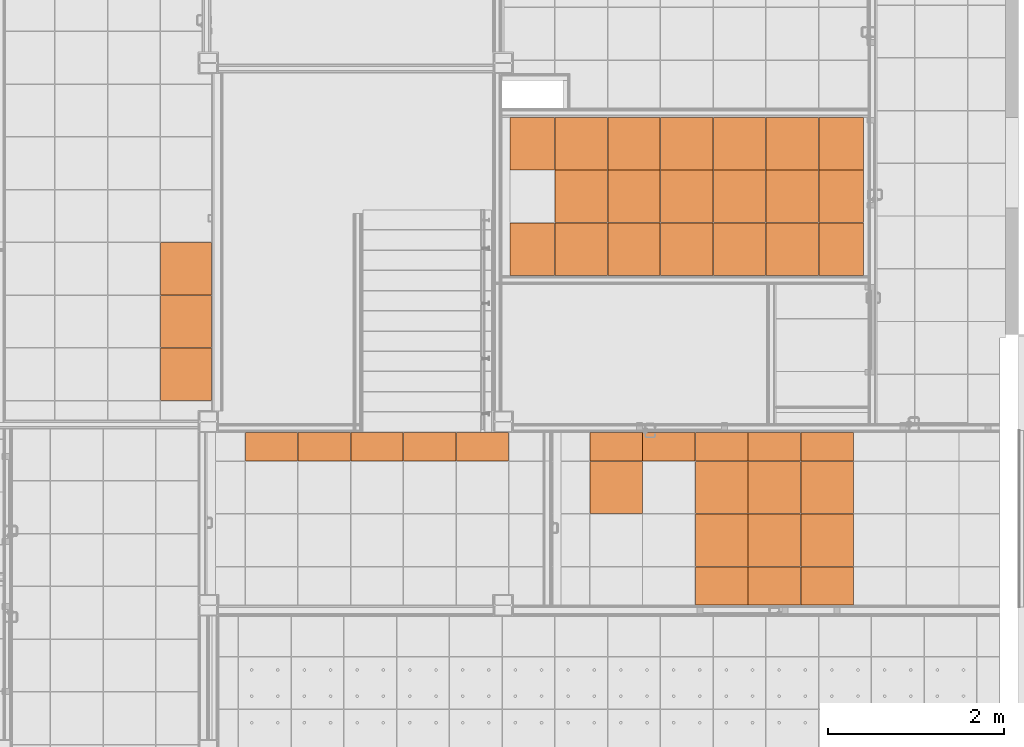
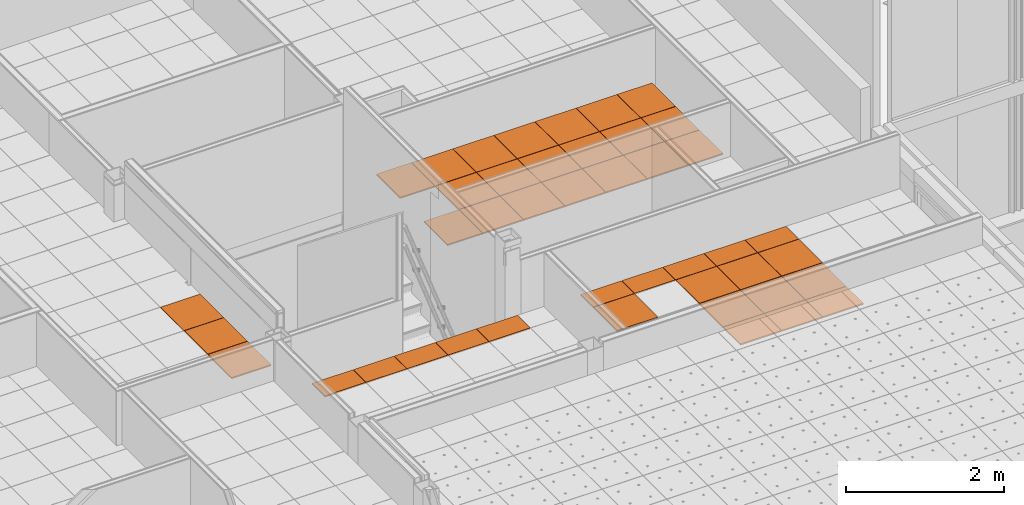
# One storey, part 269 of 338: 43 proxies, 4 elements without a shape of their own.
"""IFC2X3 building model written with IfcOpenShell, lengths in millimetres."""

from ifc_helpers import new_model, entity, si_unit, converted_unit, derived_unit, money_unit, direction, frame, origin_with_axes, place, context, subcontext, project, spatial, faceted_brep, source, transform, mapped, material, type_object, type_shapes, element, aggregate, save


model = new_model("IFC2X3")

# Units and contexts
model_context = context("Model", 3, precision=0.01, world=origin_with_axes(), true_north=direction((0.0, 1.0)))
plan_context = context("Plan", 3, precision=0.01, world=origin_with_axes(), true_north=direction((0.0, 1.0)))
body_context = subcontext(model_context, "Body", "Model", "MODEL_VIEW")
ifc_project = project(units=[si_unit("LENGTHUNIT", "METRE", prefix="MILLI"), si_unit("AREAUNIT", "SQUARE_METRE"), si_unit("VOLUMEUNIT", "CUBIC_METRE"), converted_unit("PLANEANGLEUNIT", "DEGREE", entity("IfcPlaneAngleMeasure", 0.0174532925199), si_unit("PLANEANGLEUNIT", "RADIAN"), dimensions=[0, 0, 0, 0, 0, 0, 0]), money_unit("EUR"), converted_unit("TIMEUNIT", "Year", entity("IfcTimeMeasure", 31556926.0), si_unit("TIMEUNIT", "SECOND"), dimensions=[0, 0, 1, 0, 0, 0, 0]), si_unit("MASSUNIT", "GRAM", prefix="KILO"), si_unit("THERMODYNAMICTEMPERATUREUNIT", "DEGREE_CELSIUS"), si_unit("LUMINOUSINTENSITYUNIT", "LUMEN"), si_unit("ENERGYUNIT", "JOULE", prefix="MEGA"), derived_unit("THERMALCONDUCTANCEUNIT", [(si_unit("POWERUNIT", "WATT"), 1), (si_unit("LENGTHUNIT", "METRE"), -1), (si_unit("THERMODYNAMICTEMPERATUREUNIT", "KELVIN"), -1)]), derived_unit("SPECIFICHEATCAPACITYUNIT", [(si_unit("ENERGYUNIT", "JOULE"), 1), (si_unit("MASSUNIT", "GRAM", prefix="KILO"), -1), (si_unit("THERMODYNAMICTEMPERATUREUNIT", "KELVIN"), -1)]), derived_unit("MASSDENSITYUNIT", [(si_unit("MASSUNIT", "GRAM", prefix="KILO"), 1), (si_unit("VOLUMEUNIT", "CUBIC_METRE"), -1)])], contexts=[model_context, plan_context])

# Site, building, storey
site_placement = place(None, origin_with_axes())
site = spatial("IfcSite", under=ifc_project, at=site_placement, Name="Fortuinstraat Woensdrecht", CompositionType="ELEMENT")
building_placement = place(site_placement, origin_with_axes())
building = spatial("IfcBuilding", under=site, at=building_placement, Name="IKC Fortuna", CompositionType="ELEMENT")
storey_placement = place(building_placement, origin_with_axes())
storey = spatial("IfcBuildingStorey", under=building, at=storey_placement, Name="00 begane grond", CompositionType="ELEMENT", Elevation=0.0)

# Covering, proxies
covering_type = type_object("IfcCoveringType", Name="Curtain Wall Type", PredefinedType="CEILING")
covering_1_placement = place(storey_placement, frame((30854.3216019, 19636.030534, 2810.0), z_axis=(0.0, 0.0, 1.0), x_axis=(1.0, 0.0, 0.0)))
covering_1 = element("IfcCovering", 1, at=covering_1_placement, inside=storey, type_object=covering_type, Name="45_Plafondafwerking_P02 gec", PredefinedType="CEILING")
ifc_material = material(Name="Gipsplaat")
building_element_proxy_type_1 = type_object("IfcBuildingElementProxyType", Name="Distinct Panel 600 x 600 x 20", PredefinedType="NOTDEFINED")
shared_shape_1 = source(origin_with_axes(), body_context, "Body", "Brep", [
    faceted_brep([(-2.49999999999, 2.5, -10.0), (-2.49999999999, 2.5, 10.0), (-597.5, 2.49999999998, 10.0), (-597.5, 2.49999999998, -10.0), (-2.50000000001, 597.5, -10.0), (-2.50000000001, 597.5, 10.0), (-597.5, 597.5, 10.0), (-597.5, 597.5, -10.0)], [[[0, 1, 2, 3]], [[4, 5, 1, 0]], [[1, 5, 6, 2]], [[3, 2, 6, 7]], [[0, 3, 7, 4]], [[7, 6, 5, 4]]]),
])
proxy_1_placement = place(covering_1_placement, frame((600.0, -463.766100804, 0.0), z_axis=(0.0, 0.0, 1.0), x_axis=(1.0, 0.0, 0.0)))
proxy_1 = element("IfcBuildingElementProxy", 2, at=proxy_1_placement, type_object=building_element_proxy_type_1, material=ifc_material, Name="__Panel-D", context=body_context, shape_type="MappedRepresentation", body=[
    mapped(shared_shape_1, transform((-300.0, 300.0, 0.0), x_axis=(-1.0, 0.0, 0.0), y_axis=(0.0, -1.0, 0.0), z_axis=(0.0, 0.0, 1.0))),
])
proxy_2_placement = place(covering_1_placement, frame((600.0, -1063.7661008, 0.0), z_axis=(0.0, 0.0, 1.0), x_axis=(1.0, 0.0, 0.0)))
proxy_2 = element("IfcBuildingElementProxy", 3, at=proxy_2_placement, type_object=building_element_proxy_type_1, material=ifc_material, Name="__Panel-D", context=body_context, shape_type="MappedRepresentation", body=[
    mapped(shared_shape_1, transform((-300.0, 300.0, 0.0), x_axis=(-1.0, 0.0, 0.0), y_axis=(0.0, -1.0, 0.0), z_axis=(0.0, 0.0, 1.0))),
])
proxy_3_placement = place(covering_1_placement, frame((1800.0, -463.766100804, 0.0), z_axis=(0.0, 0.0, 1.0), x_axis=(1.0, 0.0, 0.0)))
proxy_3 = element("IfcBuildingElementProxy", 4, at=proxy_3_placement, type_object=building_element_proxy_type_1, material=ifc_material, Name="__Panel-D", context=body_context, shape_type="MappedRepresentation", body=[
    mapped(shared_shape_1, transform((-300.0, 300.0, 0.0), x_axis=(-1.0, 0.0, 0.0), y_axis=(0.0, -1.0, 0.0), z_axis=(0.0, 0.0, 1.0))),
])
proxy_4_placement = place(covering_1_placement, frame((1800.0, -1063.7661008, 0.0), z_axis=(0.0, 0.0, 1.0), x_axis=(1.0, 0.0, 0.0)))
proxy_4 = element("IfcBuildingElementProxy", 5, at=proxy_4_placement, type_object=building_element_proxy_type_1, material=ifc_material, Name="__Panel-D", context=body_context, shape_type="MappedRepresentation", body=[
    mapped(shared_shape_1, transform((-300.0, 300.0, 0.0), x_axis=(-1.0, 0.0, 0.0), y_axis=(0.0, -1.0, 0.0), z_axis=(0.0, 0.0, 1.0))),
])
proxy_5_placement = place(covering_1_placement, frame((1200.0, -1063.7661008, 0.0), z_axis=(0.0, 0.0, 1.0), x_axis=(1.0, 0.0, 0.0)))
proxy_5 = element("IfcBuildingElementProxy", 6, at=proxy_5_placement, type_object=building_element_proxy_type_1, material=ifc_material, Name="__Panel-D", context=body_context, shape_type="MappedRepresentation", body=[
    mapped(shared_shape_1, transform((-300.0, 300.0, 0.0), x_axis=(-1.0, 0.0, 0.0), y_axis=(0.0, -1.0, 0.0), z_axis=(0.0, 0.0, 1.0))),
])

covering_2_placement = place(storey_placement, frame((29857.0095423, 23084.513552, 2810.0), z_axis=(0.0, 0.0, 1.0), x_axis=(1.0, 0.0, 0.0)))
covering_2 = element("IfcCovering", 7, at=covering_2_placement, inside=storey, type_object=covering_type, Name="45_Plafondafwerking_P02", PredefinedType="CEILING")
proxy_6_placement = place(covering_2_placement, frame((0.0, -1200.00000243, 0.0), z_axis=(0.0, 0.0, 1.0), x_axis=(1.0, 0.0, 0.0)))
proxy_6 = element("IfcBuildingElementProxy", 8, at=proxy_6_placement, type_object=building_element_proxy_type_1, material=ifc_material, Name="__Panel-D", context=body_context, shape_type="MappedRepresentation", body=[
    mapped(shared_shape_1, transform((-300.0, 300.000001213, 0.0), x_axis=(-1.0, 0.0, 0.0), y_axis=(0.0, -1.0, 0.0), z_axis=(0.0, 0.0, 1.0))),
])
proxy_7_placement = place(covering_2_placement, frame((0.0, -600.000001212, 0.0), z_axis=(0.0, 0.0, 1.0), x_axis=(1.0, 0.0, 0.0)))
proxy_7 = element("IfcBuildingElementProxy", 9, at=proxy_7_placement, type_object=building_element_proxy_type_1, material=ifc_material, Name="__Panel-D", context=body_context, shape_type="MappedRepresentation", body=[
    mapped(shared_shape_1, transform((-300.0, 300.0, 0.0), x_axis=(-1.0, 0.0, 0.0), y_axis=(0.0, -1.0, 0.0), z_axis=(0.0, 0.0, 1.0))),
])
proxy_8_placement = place(covering_2_placement, frame((1800.0, -1200.00000243, 0.0), z_axis=(0.0, 0.0, 1.0), x_axis=(1.0, 0.0, 0.0)))
proxy_8 = element("IfcBuildingElementProxy", 10, at=proxy_8_placement, type_object=building_element_proxy_type_1, material=ifc_material, Name="__Panel-D", context=body_context, shape_type="MappedRepresentation", body=[
    mapped(shared_shape_1, transform((-300.0, 300.000001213, 0.0), x_axis=(-1.0, 0.0, 0.0), y_axis=(0.0, -1.0, 0.0), z_axis=(0.0, 0.0, 1.0))),
])
proxy_9_placement = place(covering_2_placement, frame((600.0, 0.0, 0.0), z_axis=(0.0, 0.0, 1.0), x_axis=(1.0, 0.0, 0.0)))
proxy_9 = element("IfcBuildingElementProxy", 11, at=proxy_9_placement, type_object=building_element_proxy_type_1, material=ifc_material, Name="__Panel-D", context=body_context, shape_type="MappedRepresentation", body=[
    mapped(shared_shape_1, transform((-300.0, 300.000001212, 0.0), x_axis=(-1.0, 0.0, 0.0), y_axis=(0.0, -1.0, 0.0), z_axis=(0.0, 0.0, 1.0))),
])
proxy_10_placement = place(covering_2_placement, frame((2400.0, -600.000001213, 1.05693231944e-10), z_axis=(0.0, 0.0, 1.0), x_axis=(1.0, 0.0, 0.0)))
proxy_10 = element("IfcBuildingElementProxy", 12, at=proxy_10_placement, type_object=building_element_proxy_type_1, material=ifc_material, Name="__Panel-D", context=body_context, shape_type="MappedRepresentation", body=[
    mapped(shared_shape_1, transform((-300.0, 300.0, 0.0), x_axis=(-1.0, 0.0, 0.0), y_axis=(0.0, -1.0, 0.0), z_axis=(0.0, 0.0, 1.0))),
])
proxy_11_placement = place(covering_2_placement, frame((1200.0, -1200.00000243, 0.0), z_axis=(0.0, 0.0, 1.0), x_axis=(1.0, 0.0, 0.0)))
proxy_11 = element("IfcBuildingElementProxy", 13, at=proxy_11_placement, type_object=building_element_proxy_type_1, material=ifc_material, Name="__Panel-D", context=body_context, shape_type="MappedRepresentation", body=[
    mapped(shared_shape_1, transform((-300.0, 300.000001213, 0.0), x_axis=(-1.0, 0.0, 0.0), y_axis=(0.0, -1.0, 0.0), z_axis=(0.0, 0.0, 1.0))),
])
proxy_12_placement = place(covering_2_placement, frame((600.0, -600.000001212, 0.0), z_axis=(0.0, 0.0, 1.0), x_axis=(1.0, 0.0, 0.0)))
proxy_12 = element("IfcBuildingElementProxy", 14, at=proxy_12_placement, type_object=building_element_proxy_type_1, material=ifc_material, Name="__Panel-D", context=body_context, shape_type="MappedRepresentation", body=[
    mapped(shared_shape_1, transform((-300.0, 300.0, 0.0), x_axis=(-1.0, 0.0, 0.0), y_axis=(0.0, -1.0, 0.0), z_axis=(0.0, 0.0, 1.0))),
])
proxy_13_placement = place(covering_2_placement, frame((1800.0, 0.0, 0.0), z_axis=(0.0, 0.0, 1.0), x_axis=(1.0, 0.0, 0.0)))
proxy_13 = element("IfcBuildingElementProxy", 15, at=proxy_13_placement, type_object=building_element_proxy_type_1, material=ifc_material, Name="__Panel-D", context=body_context, shape_type="MappedRepresentation", body=[
    mapped(shared_shape_1, transform((-300.0, 300.000001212, 0.0), x_axis=(-1.0, 0.0, 0.0), y_axis=(0.0, -1.0, 0.0), z_axis=(0.0, 0.0, 1.0))),
])
proxy_14_placement = place(covering_2_placement, frame((1200.0, -600.000001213, 0.0), z_axis=(0.0, 0.0, 1.0), x_axis=(1.0, 0.0, 0.0)))
proxy_14 = element("IfcBuildingElementProxy", 16, at=proxy_14_placement, type_object=building_element_proxy_type_1, material=ifc_material, Name="__Panel-D", context=body_context, shape_type="MappedRepresentation", body=[
    mapped(shared_shape_1, transform((-300.0, 300.0, 0.0), x_axis=(-1.0, 0.0, 0.0), y_axis=(0.0, -1.0, 0.0), z_axis=(0.0, 0.0, 1.0))),
])
proxy_15_placement = place(covering_2_placement, frame((2400.0, 0.0, 1.05693231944e-10), z_axis=(0.0, 0.0, 1.0), x_axis=(1.0, 0.0, 0.0)))
proxy_15 = element("IfcBuildingElementProxy", 17, at=proxy_15_placement, type_object=building_element_proxy_type_1, material=ifc_material, Name="__Panel-D", context=body_context, shape_type="MappedRepresentation", body=[
    mapped(shared_shape_1, transform((-300.0, 300.000001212, 0.0), x_axis=(-1.0, 0.0, 0.0), y_axis=(0.0, -1.0, 0.0), z_axis=(0.0, 0.0, 1.0))),
])
proxy_16_placement = place(covering_2_placement, frame((2400.0, -1200.00000243, 1.05693231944e-10), z_axis=(0.0, 0.0, 1.0), x_axis=(1.0, 0.0, 0.0)))
proxy_16 = element("IfcBuildingElementProxy", 18, at=proxy_16_placement, type_object=building_element_proxy_type_1, material=ifc_material, Name="__Panel-D", context=body_context, shape_type="MappedRepresentation", body=[
    mapped(shared_shape_1, transform((-300.0, 300.000001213, 0.0), x_axis=(-1.0, 0.0, 0.0), y_axis=(0.0, -1.0, 0.0), z_axis=(0.0, 0.0, 1.0))),
])
proxy_17_placement = place(covering_2_placement, frame((1800.0, -600.000001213, 0.0), z_axis=(0.0, 0.0, 1.0), x_axis=(1.0, 0.0, 0.0)))
proxy_17 = element("IfcBuildingElementProxy", 19, at=proxy_17_placement, type_object=building_element_proxy_type_1, material=ifc_material, Name="__Panel-D", context=body_context, shape_type="MappedRepresentation", body=[
    mapped(shared_shape_1, transform((-300.0, 300.0, 0.0), x_axis=(-1.0, 0.0, 0.0), y_axis=(0.0, -1.0, 0.0), z_axis=(0.0, 0.0, 1.0))),
])
proxy_18_placement = place(covering_2_placement, frame((1200.0, 0.0, 0.0), z_axis=(0.0, 0.0, 1.0), x_axis=(1.0, 0.0, 0.0)))
proxy_18 = element("IfcBuildingElementProxy", 20, at=proxy_18_placement, type_object=building_element_proxy_type_1, material=ifc_material, Name="__Panel-D", context=body_context, shape_type="MappedRepresentation", body=[
    mapped(shared_shape_1, transform((-300.0, 300.000001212, 0.0), x_axis=(-1.0, 0.0, 0.0), y_axis=(0.0, -1.0, 0.0), z_axis=(0.0, 0.0, 1.0))),
])

covering_3_placement = place(storey_placement, frame((21169.4446171, 27661.0834994, 3010.0), z_axis=(0.0, 0.0, 1.0), x_axis=(1.0, 0.0, 0.0)))
covering_3 = element("IfcCovering", 21, at=covering_3_placement, inside=storey, type_object=covering_type, Name="45_Plafondafwerking_P04", PredefinedType="CEILING")
building_element_proxy_type_2 = type_object("IfcBuildingElementProxyType", Name="Distinct Panel 583 x 600 x 20", PredefinedType="NOTDEFINED")
shared_shape_2 = source(origin_with_axes(), body_context, "Body", "Brep", [
    faceted_brep([(-2.49999967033, 2.5, -10.0), (-2.49999967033, 2.5, 10.0), (-580.990379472, 2.49999999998, 10.0), (-580.990379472, 2.49999999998, -10.0), (-2.49999967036, 597.5, -10.0), (-2.49999967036, 597.5, 10.0), (-580.990379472, 597.5, 10.0), (-580.990379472, 597.5, -10.0)], [[[0, 1, 2, 3]], [[4, 5, 1, 0]], [[1, 5, 6, 2]], [[3, 2, 6, 7]], [[0, 3, 7, 4]], [[7, 6, 5, 4]]]),
])
type_shapes(building_element_proxy_type_2, [shared_shape_2])
proxy_19_placement = place(covering_3_placement, frame((4191.74518974, -6600.0, 1.55875312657e-10), z_axis=(0.0, 0.0, 1.0), x_axis=(1.0, 0.0, 0.0)))
proxy_19 = element("IfcBuildingElementProxy", 22, at=proxy_19_placement, type_object=building_element_proxy_type_2, material=ifc_material, Name="__Panel-D", context=body_context, shape_type="MappedRepresentation", body=[
    mapped(shared_shape_2, transform((-291.745189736, 300.0, 0.0), x_axis=(-1.0, 0.0, 0.0), y_axis=(0.0, -1.0, 0.0), z_axis=(0.0, 0.0, 1.0))),
])
proxy_20_placement = place(covering_3_placement, frame((4191.74518974, -6000.0, 1.55875312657e-10), z_axis=(0.0, 0.0, 1.0), x_axis=(1.0, 0.0, 0.0)))
proxy_20 = element("IfcBuildingElementProxy", 23, at=proxy_20_placement, type_object=building_element_proxy_type_2, material=ifc_material, Name="__Panel-D", context=body_context, shape_type="MappedRepresentation", body=[
    mapped(shared_shape_2, transform((-291.745189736, 300.0, 0.0), x_axis=(-1.0, 0.0, 0.0), y_axis=(0.0, -1.0, 0.0), z_axis=(0.0, 0.0, 1.0))),
])
proxy_21_placement = place(covering_3_placement, frame((4191.74518241, -7200.0, 1.55875312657e-10), z_axis=(0.0, 0.0, 1.0), x_axis=(1.0, 0.0, 0.0)))
proxy_21 = element("IfcBuildingElementProxy", 24, at=proxy_21_placement, type_object=building_element_proxy_type_2, material=ifc_material, Name="__Panel-D", context=body_context, shape_type="MappedRepresentation", body=[
    mapped(shared_shape_2, transform((-291.745182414, 300.0, 0.0), x_axis=(-1.0, 0.0, 0.0), y_axis=(0.0, -1.0, 0.0), z_axis=(0.0, 0.0, 1.0))),
])
aggregate(covering_3, [proxy_19, proxy_20, proxy_21])

# Proxy
shared_shape_3 = source(origin_with_axes(), body_context, "Body", "Brep", [
    faceted_brep([(-2.50000188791, 2.50000518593, -10.0), (-2.50000188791, 2.50000518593, 10.0), (-597.499994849, 2.50000192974, 10.0), (-597.499994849, 2.50000192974, -10.0), (-2.50000514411, 597.499998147, -10.0), (-2.50000514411, 597.499998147, 10.0), (-597.499998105, 597.499994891, 10.0), (-597.499998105, 597.499994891, -10.0)], [[[0, 1, 2, 3]], [[4, 5, 1, 0]], [[1, 5, 6, 2]], [[3, 2, 6, 7]], [[0, 3, 7, 4]], [[7, 6, 5, 4]]]),
])
proxy_22_placement = place(covering_1_placement, frame((1200.0, -463.766100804, 0.0), z_axis=(0.0, 0.0, 1.0), x_axis=(1.0, 0.0, 0.0)))
proxy_22 = element("IfcBuildingElementProxy", 25, at=proxy_22_placement, type_object=building_element_proxy_type_1, material=ifc_material, Name="__Panel-D", context=body_context, shape_type="MappedRepresentation", body=[
    mapped(shared_shape_3, transform((-300.0, 300.0, 0.0), x_axis=(-1.0, 0.0, 0.0), y_axis=(0.0, -1.0, 0.0), z_axis=(0.0, 0.0, 1.0))),
])

proxy_23_placement = place(covering_2_placement, origin_with_axes())
proxy_23 = element("IfcBuildingElementProxy", 26, at=proxy_23_placement, type_object=building_element_proxy_type_1, material=ifc_material, Name="__Panel-D", context=body_context, shape_type="MappedRepresentation", body=[
    mapped(shared_shape_3, transform((-300.0, 300.000001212, 0.0), x_axis=(-1.0, 0.0, 0.0), y_axis=(0.0, -1.0, 0.0), z_axis=(0.0, 0.0, 1.0))),
])

shared_shape_4 = source(origin_with_axes(), body_context, "Body", "Brep", [
    faceted_brep([(-2.5000069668, 2.4999963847, -10.0), (-2.5000069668, 2.4999963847, 10.0), (-597.499995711, 2.50000275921, 10.0), (-597.499995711, 2.50000275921, -10.0), (-2.50000214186, 597.499967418, -10.0), (-2.50000214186, 597.499967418, 10.0), (-597.499990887, 597.499973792, 10.0), (-597.499990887, 597.499973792, -10.0)], [[[0, 1, 2, 3]], [[4, 5, 1, 0]], [[1, 5, 6, 2]], [[3, 2, 6, 7]], [[0, 3, 7, 4]], [[7, 6, 5, 4]]]),
])
proxy_24_placement = place(covering_2_placement, frame((600.0, -1200.00000243, 0.0), z_axis=(0.0, 0.0, 1.0), x_axis=(1.0, 0.0, 0.0)))
proxy_24 = element("IfcBuildingElementProxy", 27, at=proxy_24_placement, type_object=building_element_proxy_type_1, material=ifc_material, Name="__Panel-D", context=body_context, shape_type="MappedRepresentation", body=[
    mapped(shared_shape_4, transform((-300.0, 300.000001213, 0.0), x_axis=(-1.0, 0.0, 0.0), y_axis=(0.0, -1.0, 0.0), z_axis=(0.0, 0.0, 1.0))),
])

shared_shape_5 = source(origin_with_axes(), body_context, "Body", "Brep", [
    faceted_brep([(-2.50000185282, 2.50000514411, -10.0), (-2.50000185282, 2.50000514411, 10.0), (-597.499994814, 2.50000188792, 10.0), (-597.499994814, 2.50000188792, -10.0), (-2.50000510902, 597.499998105, -10.0), (-2.50000510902, 597.499998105, 10.0), (-597.49998844, 597.50000293, 10.0), (-597.49998844, 597.50000293, -10.0)], [[[0, 1, 2, 3]], [[4, 5, 1, 0]], [[1, 5, 6, 2]], [[3, 2, 6, 7]], [[0, 3, 7, 4]], [[7, 6, 5, 4]]]),
])
type_shapes(building_element_proxy_type_1, [shared_shape_1, shared_shape_3, shared_shape_4, shared_shape_5])
proxy_25_placement = place(covering_1_placement, frame((-600.0, -463.766100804, 0.0), z_axis=(0.0, 0.0, 1.0), x_axis=(1.0, 0.0, 0.0)))
proxy_25 = element("IfcBuildingElementProxy", 28, at=proxy_25_placement, type_object=building_element_proxy_type_1, material=ifc_material, Name="__Panel-D", context=body_context, shape_type="MappedRepresentation", body=[
    mapped(shared_shape_5, transform((-300.0, 300.0, 0.0), x_axis=(-1.0, 0.0, 0.0), y_axis=(0.0, -1.0, 0.0), z_axis=(0.0, 0.0, 1.0))),
])

# Covering, proxies
covering_4_placement = place(storey_placement, frame((28134.6600538, 19636.0305189, 2810.0), z_axis=(0.0, 0.0, 1.0), x_axis=(1.0, 0.0, 0.0)))
covering_4 = element("IfcCovering", 29, at=covering_4_placement, inside=storey, type_object=covering_type, Name="45_Plafondafwerking_P02", PredefinedType="CEILING")
building_element_proxy_type_3 = type_object("IfcBuildingElementProxyType", Name="Distinct Panel 600 x 328 x 20", PredefinedType="NOTDEFINED")
shared_shape_6 = source(origin_with_axes(), body_context, "Body", "Brep", [
    faceted_brep([(-2.49999999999, 274.967831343, -10.0), (-2.49999999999, 274.967831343, 10.0), (-597.5, 274.967831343, 10.0), (-597.5, 274.967831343, -10.0), (-2.5, 597.5, -10.0), (-2.5, 597.5, 10.0), (-597.5, 597.5, 10.0), (-597.5, 597.5, -10.0)], [[[0, 1, 2, 3]], [[4, 5, 1, 0]], [[1, 5, 6, 2]], [[3, 2, 6, 7]], [[0, 3, 7, 4]], [[7, 6, 5, 4]]]),
])
proxy_26_placement = place(covering_4_placement, origin_with_axes())
proxy_26 = element("IfcBuildingElementProxy", 30, at=proxy_26_placement, type_object=building_element_proxy_type_3, material=ifc_material, Name="__Panel-D", context=body_context, shape_type="MappedRepresentation", body=[
    mapped(shared_shape_6, transform((-300.0, 436.233914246, 0.0), x_axis=(-1.0, 0.0, 0.0), y_axis=(0.0, -1.0, 0.0), z_axis=(0.0, 0.0, 1.0))),
])
proxy_27_placement = place(covering_4_placement, frame((-1800.0, 0.0, 0.0), z_axis=(0.0, 0.0, 1.0), x_axis=(1.0, 0.0, 0.0)))
proxy_27 = element("IfcBuildingElementProxy", 31, at=proxy_27_placement, type_object=building_element_proxy_type_3, material=ifc_material, Name="__Panel-D", context=body_context, shape_type="MappedRepresentation", body=[
    mapped(shared_shape_6, transform((-300.0, 436.233914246, 0.0), x_axis=(-1.0, 0.0, 0.0), y_axis=(0.0, -1.0, 0.0), z_axis=(0.0, 0.0, 1.0))),
])

# Proxy
proxy_28_placement = place(covering_1_placement, origin_with_axes())
proxy_28 = element("IfcBuildingElementProxy", 32, at=proxy_28_placement, type_object=building_element_proxy_type_3, material=ifc_material, Name="__Panel-D", context=body_context, shape_type="MappedRepresentation", body=[
    mapped(shared_shape_6, transform((-300.0, 436.233899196, 0.0), x_axis=(-1.0, 0.0, 0.0), y_axis=(0.0, -1.0, 0.0), z_axis=(0.0, 0.0, 1.0))),
])

proxy_29_placement = place(covering_1_placement, frame((-600.0, 0.0, 0.0), z_axis=(0.0, 0.0, 1.0), x_axis=(1.0, 0.0, 0.0)))
proxy_29 = element("IfcBuildingElementProxy", 33, at=proxy_29_placement, type_object=building_element_proxy_type_3, material=ifc_material, Name="__Panel-D", context=body_context, shape_type="MappedRepresentation", body=[
    mapped(shared_shape_6, transform((-300.0, 436.233899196, 0.0), x_axis=(-1.0, 0.0, 0.0), y_axis=(0.0, -1.0, 0.0), z_axis=(0.0, 0.0, 1.0))),
])

proxy_30_placement = place(covering_1_placement, frame((1800.0, 0.0, 0.0), z_axis=(0.0, 0.0, 1.0), x_axis=(1.0, 0.0, 0.0)))
proxy_30 = element("IfcBuildingElementProxy", 34, at=proxy_30_placement, type_object=building_element_proxy_type_3, material=ifc_material, Name="__Panel-D", context=body_context, shape_type="MappedRepresentation", body=[
    mapped(shared_shape_6, transform((-300.0, 436.233899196, 0.0), x_axis=(-1.0, 0.0, 0.0), y_axis=(0.0, -1.0, 0.0), z_axis=(0.0, 0.0, 1.0))),
])

proxy_31_placement = place(covering_1_placement, frame((1200.0, 0.0, 0.0), z_axis=(0.0, 0.0, 1.0), x_axis=(1.0, 0.0, 0.0)))
proxy_31 = element("IfcBuildingElementProxy", 35, at=proxy_31_placement, type_object=building_element_proxy_type_3, material=ifc_material, Name="__Panel-D", context=body_context, shape_type="MappedRepresentation", body=[
    mapped(shared_shape_6, transform((-300.0, 436.233899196, 0.0), x_axis=(-1.0, 0.0, 0.0), y_axis=(0.0, -1.0, 0.0), z_axis=(0.0, 0.0, 1.0))),
])

building_element_proxy_type_4 = type_object("IfcBuildingElementProxyType", Name="Distinct Panel 600 x 437 x 20", PredefinedType="NOTDEFINED")
shared_shape_7 = source(origin_with_axes(), body_context, "Body", "Brep", [
    faceted_brep([(-2.49999999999, 2.5000033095, -10.0), (-2.49999999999, 2.5000033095, 10.0), (-597.5, 2.50000330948, 10.0), (-597.5, 2.50000330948, -10.0), (-2.50000000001, 434.967816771, -10.0), (-2.50000000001, 434.967816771, 10.0), (-597.5, 434.967798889, 10.0), (-597.5, 434.967798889, -10.0)], [[[0, 1, 2, 3]], [[4, 5, 1, 0]], [[1, 5, 6, 2]], [[3, 2, 6, 7]], [[0, 3, 7, 4]], [[7, 6, 5, 4]]]),
])
proxy_32_placement = place(covering_1_placement, frame((1800.0, -1582.49999421, 0.0), z_axis=(0.0, 0.0, 1.0), x_axis=(1.0, 0.0, 0.0)))
proxy_32 = element("IfcBuildingElementProxy", 36, at=proxy_32_placement, type_object=building_element_proxy_type_4, material=ifc_material, Name="__Panel-D", context=body_context, shape_type="MappedRepresentation", body=[
    mapped(shared_shape_7, transform((-300.0, 218.733893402, 0.0), x_axis=(-1.0, 0.0, 0.0), y_axis=(0.0, -1.0, 0.0), z_axis=(0.0, 0.0, 1.0))),
])

shared_shape_8 = source(origin_with_axes(), body_context, "Body", "Brep", [
    faceted_brep([(-2.49999999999, 2.50000151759, -10.0), (-2.49999999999, 2.50000151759, 10.0), (-597.5, 2.50000151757, 10.0), (-597.5, 2.50000151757, -10.0), (-2.50000000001, 434.967797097, -10.0), (-2.50000000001, 434.967797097, 10.0), (-597.5, 434.967797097, 10.0), (-597.5, 434.967797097, -10.0)], [[[0, 1, 2, 3]], [[4, 5, 1, 0]], [[1, 5, 6, 2]], [[3, 2, 6, 7]], [[0, 3, 7, 4]], [[7, 6, 5, 4]]]),
])
type_shapes(building_element_proxy_type_4, [shared_shape_7, shared_shape_8])
proxy_33_placement = place(covering_1_placement, frame((1200.0, -1582.49999421, 0.0), z_axis=(0.0, 0.0, 1.0), x_axis=(1.0, 0.0, 0.0)))
proxy_33 = element("IfcBuildingElementProxy", 37, at=proxy_33_placement, type_object=building_element_proxy_type_4, material=ifc_material, Name="__Panel-D", context=body_context, shape_type="MappedRepresentation", body=[
    mapped(shared_shape_8, transform((-300.0, 218.733893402, 0.0), x_axis=(-1.0, 0.0, 0.0), y_axis=(0.0, -1.0, 0.0), z_axis=(0.0, 0.0, 1.0))),
])

proxy_34_placement = place(covering_1_placement, frame((600.0, -1582.49999421, 0.0), z_axis=(0.0, 0.0, 1.0), x_axis=(1.0, 0.0, 0.0)))
proxy_34 = element("IfcBuildingElementProxy", 38, at=proxy_34_placement, type_object=building_element_proxy_type_4, material=ifc_material, Name="__Panel-D", context=body_context, shape_type="MappedRepresentation", body=[
    mapped(shared_shape_8, transform((-300.0, 218.733893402, 0.0), x_axis=(-1.0, 0.0, 0.0), y_axis=(0.0, -1.0, 0.0), z_axis=(0.0, 0.0, 1.0))),
])

shared_shape_9 = source(origin_with_axes(), body_context, "Body", "Brep", [
    faceted_brep([(-2.49999999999, 274.967831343, -10.0), (-2.49999999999, 274.967831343, 10.0), (-597.5, 274.96780452, 10.0), (-597.5, 274.96780452, -10.0), (-2.50000000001, 597.5, -10.0), (-2.50000000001, 597.5, 10.0), (-597.5, 597.5, 10.0), (-597.5, 597.5, -10.0)], [[[0, 1, 2, 3]], [[4, 5, 1, 0]], [[1, 5, 6, 2]], [[3, 2, 6, 7]], [[0, 3, 7, 4]], [[7, 6, 5, 4]]]),
])
type_shapes(building_element_proxy_type_3, [shared_shape_6, shared_shape_9])
proxy_35_placement = place(covering_4_placement, frame((600.0, 6.47283826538e-06, 0.0), z_axis=(0.0, 0.0, 1.0), x_axis=(1.0, 0.0, 0.0)))
proxy_35 = element("IfcBuildingElementProxy", 39, at=proxy_35_placement, type_object=building_element_proxy_type_3, material=ifc_material, Name="__Panel-D", context=body_context, shape_type="MappedRepresentation", body=[
    mapped(shared_shape_9, transform((-300.0, 436.233907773, 0.0), x_axis=(-1.0, 0.0, 0.0), y_axis=(0.0, -1.0, 0.0), z_axis=(0.0, 0.0, 1.0))),
])

proxy_36_placement = place(covering_4_placement, frame((-600.0, 0.0, 0.0), z_axis=(0.0, 0.0, 1.0), x_axis=(1.0, 0.0, 0.0)))
proxy_36 = element("IfcBuildingElementProxy", 40, at=proxy_36_placement, type_object=building_element_proxy_type_3, material=ifc_material, Name="__Panel-D", context=body_context, shape_type="MappedRepresentation", body=[
    mapped(shared_shape_9, transform((-300.0, 436.233914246, 0.0), x_axis=(-1.0, 0.0, 0.0), y_axis=(0.0, -1.0, 0.0), z_axis=(0.0, 0.0, 1.0))),
])

proxy_37_placement = place(covering_4_placement, frame((-1200.0, 0.0, 0.0), z_axis=(0.0, 0.0, 1.0), x_axis=(1.0, 0.0, 0.0)))
proxy_37 = element("IfcBuildingElementProxy", 41, at=proxy_37_placement, type_object=building_element_proxy_type_3, material=ifc_material, Name="__Panel-D", context=body_context, shape_type="MappedRepresentation", body=[
    mapped(shared_shape_9, transform((-300.0, 436.233914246, 0.0), x_axis=(-1.0, 0.0, 0.0), y_axis=(0.0, -1.0, 0.0), z_axis=(0.0, 0.0, 1.0))),
])

aggregate(covering_4, [proxy_26, proxy_27, proxy_35, proxy_36, proxy_37])

proxy_38_placement = place(covering_1_placement, frame((600.0, 0.0, 0.0), z_axis=(0.0, 0.0, 1.0), x_axis=(1.0, 0.0, 0.0)))
proxy_38 = element("IfcBuildingElementProxy", 42, at=proxy_38_placement, type_object=building_element_proxy_type_3, material=ifc_material, Name="__Panel-D", context=body_context, shape_type="MappedRepresentation", body=[
    mapped(shared_shape_9, transform((-300.0, 436.233899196, 0.0), x_axis=(-1.0, 0.0, 0.0), y_axis=(0.0, -1.0, 0.0), z_axis=(0.0, 0.0, 1.0))),
])

aggregate(covering_1, [proxy_28, proxy_1, proxy_22, proxy_2, proxy_3, proxy_33, proxy_38, proxy_29, proxy_4, proxy_34, proxy_30, proxy_5, proxy_31, proxy_25, proxy_32])

building_element_proxy_type_5 = type_object("IfcBuildingElementProxyType", Name="Distinct Panel 513 x 600 x 20", PredefinedType="NOTDEFINED")
shared_shape_10 = source(origin_with_axes(), body_context, "Body", "Brep", [
    faceted_brep([(-89.8454936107, 2.50000001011, -10.0), (-89.8454936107, 2.50000001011, 10.0), (-597.49999999, 2.50000001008, 10.0), (-597.49999999, 2.50000001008, -10.0), (-89.8454936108, 597.500002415, -10.0), (-89.8454936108, 597.500002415, 10.0), (-597.49999999, 597.500002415, 10.0), (-597.49999999, 597.500002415, -10.0)], [[[0, 1, 2, 3]], [[4, 5, 1, 0]], [[1, 5, 6, 2]], [[3, 2, 6, 7]], [[0, 3, 7, 4]], [[7, 6, 5, 4]]]),
])
proxy_39_placement = place(covering_2_placement, frame((-556.327252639, -1200.00000242, 0.0), z_axis=(0.0, 0.0, 1.0), x_axis=(1.0, 0.0, 0.0)))
proxy_39 = element("IfcBuildingElementProxy", 43, at=proxy_39_placement, type_object=building_element_proxy_type_5, material=ifc_material, Name="__Panel-D", context=body_context, shape_type="MappedRepresentation", body=[
    mapped(shared_shape_10, transform((-343.672747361, 300.000001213, 0.0), x_axis=(-1.0, 0.0, 0.0), y_axis=(0.0, -1.0, 0.0), z_axis=(0.0, 0.0, 1.0))),
])

proxy_40_placement = place(covering_2_placement, frame((-556.327252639, 0.0, 0.0), z_axis=(0.0, 0.0, 1.0), x_axis=(1.0, 0.0, 0.0)))
proxy_40 = element("IfcBuildingElementProxy", 44, at=proxy_40_placement, type_object=building_element_proxy_type_5, material=ifc_material, Name="__Panel-D", context=body_context, shape_type="MappedRepresentation", body=[
    mapped(shared_shape_10, transform((-343.672747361, 300.000001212, 0.0), x_axis=(-1.0, 0.0, 0.0), y_axis=(0.0, -1.0, 0.0), z_axis=(0.0, 0.0, 1.0))),
])

shared_shape_11 = source(origin_with_axes(), body_context, "Body", "Brep", [
    faceted_brep([(-2.4999988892, 2.50000001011, -10.0), (-2.4999988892, 2.50000001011, 10.0), (-510.154505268, 2.50000001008, 10.0), (-510.154505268, 2.50000001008, -10.0), (-2.49999888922, 597.500002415, -10.0), (-2.49999888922, 597.500002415, 10.0), (-510.154505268, 597.500002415, 10.0), (-510.154505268, 597.500002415, -10.0)], [[[0, 1, 2, 3]], [[4, 5, 1, 0]], [[1, 5, 6, 2]], [[3, 2, 6, 7]], [[0, 3, 7, 4]], [[7, 6, 5, 4]]]),
])
type_shapes(building_element_proxy_type_5, [shared_shape_10, shared_shape_11])
proxy_41_placement = place(covering_2_placement, frame((2956.32725264, -1.13686837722e-10, 1.23900889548e-10), z_axis=(0.0, 0.0, 1.0), x_axis=(1.0, 0.0, 0.0)))
proxy_41 = element("IfcBuildingElementProxy", 45, at=proxy_41_placement, type_object=building_element_proxy_type_5, material=ifc_material, Name="__Panel-D", context=body_context, shape_type="MappedRepresentation", body=[
    mapped(shared_shape_11, transform((-256.327252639, 300.000001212, 0.0), x_axis=(-1.0, 0.0, 0.0), y_axis=(0.0, -1.0, 0.0), z_axis=(0.0, 0.0, 1.0))),
])

proxy_42_placement = place(covering_2_placement, frame((2956.32725264, -1200.00000243, 1.23900889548e-10), z_axis=(0.0, 0.0, 1.0), x_axis=(1.0, 0.0, 0.0)))
proxy_42 = element("IfcBuildingElementProxy", 46, at=proxy_42_placement, type_object=building_element_proxy_type_5, material=ifc_material, Name="__Panel-D", context=body_context, shape_type="MappedRepresentation", body=[
    mapped(shared_shape_11, transform((-256.327252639, 300.000001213, 0.0), x_axis=(-1.0, 0.0, 0.0), y_axis=(0.0, -1.0, 0.0), z_axis=(0.0, 0.0, 1.0))),
])

proxy_43_placement = place(covering_2_placement, frame((2956.32725264, -600.000001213, 1.23900889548e-10), z_axis=(0.0, 0.0, 1.0), x_axis=(1.0, 0.0, 0.0)))
proxy_43 = element("IfcBuildingElementProxy", 47, at=proxy_43_placement, type_object=building_element_proxy_type_5, material=ifc_material, Name="__Panel-D", context=body_context, shape_type="MappedRepresentation", body=[
    mapped(shared_shape_11, transform((-256.327252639, 300.0, 0.0), x_axis=(-1.0, 0.0, 0.0), y_axis=(0.0, -1.0, 0.0), z_axis=(0.0, 0.0, 1.0))),
])

aggregate(covering_2, [proxy_23, proxy_6, proxy_7, proxy_39, proxy_41, proxy_24, proxy_8, proxy_9, proxy_10, proxy_42, proxy_11, proxy_40, proxy_12, proxy_13, proxy_43, proxy_14, proxy_15, proxy_16, proxy_17, proxy_18])

save(model, "model.ifc")
